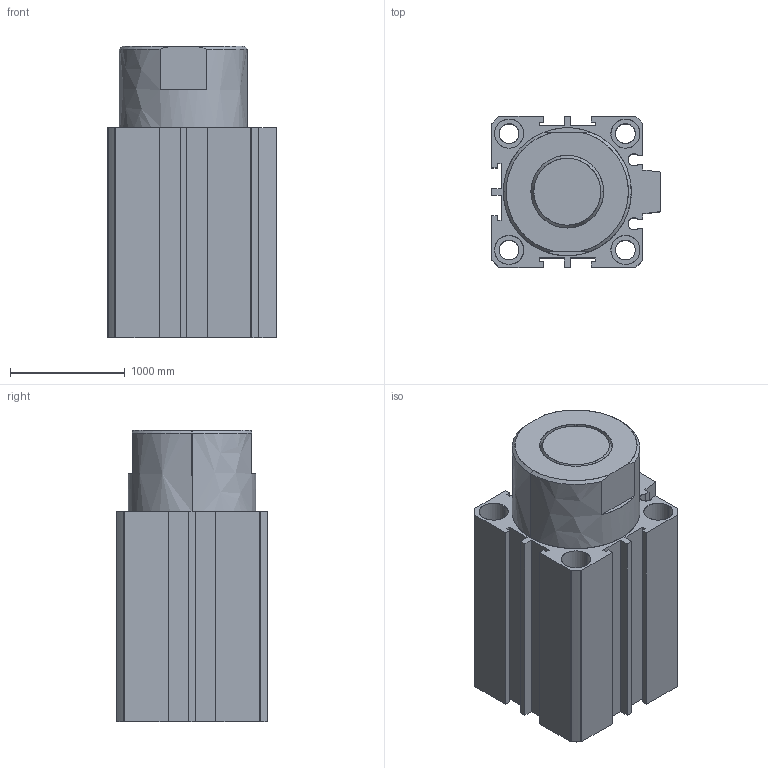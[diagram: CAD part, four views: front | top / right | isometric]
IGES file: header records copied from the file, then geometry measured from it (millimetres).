
Start section: SolidWorks IGES file using analytic representation for surfaces
Global section: file name: C:\Documents and Settings\Standard\Bureau\NM pieces 3d\ELO 40 20 tige entrée.IGS; native system: SolidWorks 2007; preprocessor: SolidWorks 2007; author: Standard; date: 080328.103219; units: inch
Bounding box: 1473.2 x 1320.8 x 2545.08 mm (x, y, z)
Surface area: 32026868.4 mm2 (no closed solid volume)
Topology: 0 solids, 0 shells, 538 faces, 13421 edges, 13459 vertices
Faces by surface type: bspline 483, revolution 55
